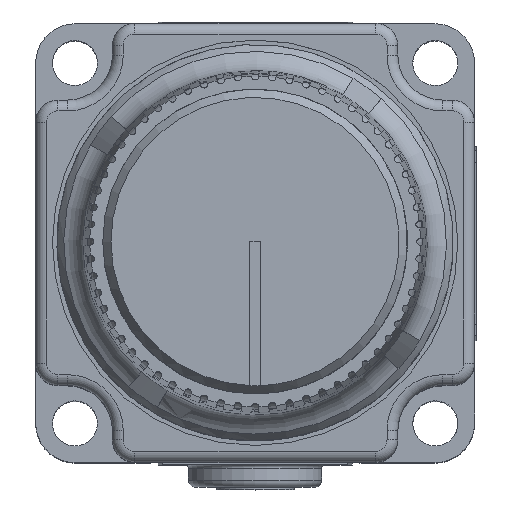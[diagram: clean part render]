
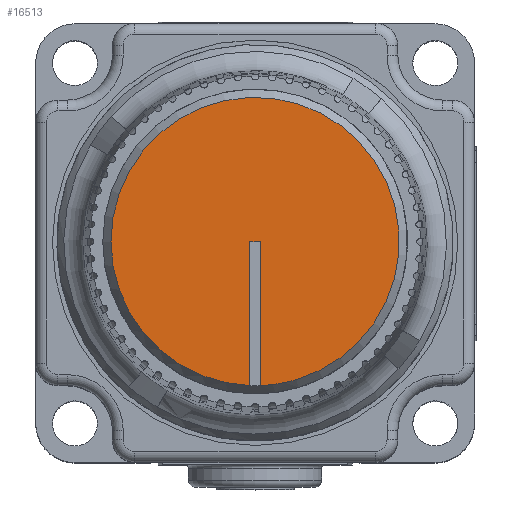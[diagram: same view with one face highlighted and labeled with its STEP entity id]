
A CAD part, top view. The second image highlights one B-rep face of the part: STEP entity #16513.
In plain terms, the highlighted planar face has unit normal (0, 0, 1).
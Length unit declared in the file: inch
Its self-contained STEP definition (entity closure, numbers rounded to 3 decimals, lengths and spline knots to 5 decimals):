
#817=PLANE('',#18056);
#1518=FACE_OUTER_BOUND('',#2483,.T.);
#2483=EDGE_LOOP('',(#12752,#12753,#12754,#12755,#12756));
#3341=CIRCLE('',#18057,0.4);
#3342=CIRCLE('',#18058,0.4);
#4553=LINE('',#27879,#5706);
#4554=LINE('',#27885,#5707);
#4555=LINE('',#27886,#5708);
#5706=VECTOR('',#21853,0.3937);
#5707=VECTOR('',#21858,0.3937);
#5708=VECTOR('',#21859,0.3937);
#7041=VERTEX_POINT('',#27877);
#7042=VERTEX_POINT('',#27878);
#7043=VERTEX_POINT('',#27880);
#7044=VERTEX_POINT('',#27882);
#7045=VERTEX_POINT('',#27884);
#9054=EDGE_CURVE('',#7041,#7042,#4553,.T.);
#9055=EDGE_CURVE('',#7042,#7043,#3341,.T.);
#9056=EDGE_CURVE('',#7043,#7044,#3342,.T.);
#9057=EDGE_CURVE('',#7044,#7045,#4554,.T.);
#9058=EDGE_CURVE('',#7045,#7041,#4555,.T.);
#12752=ORIENTED_EDGE('',*,*,#9054,.T.);
#12753=ORIENTED_EDGE('',*,*,#9055,.T.);
#12754=ORIENTED_EDGE('',*,*,#9056,.T.);
#12755=ORIENTED_EDGE('',*,*,#9057,.T.);
#12756=ORIENTED_EDGE('',*,*,#9058,.T.);
#16513=ADVANCED_FACE('',(#1518),#817,.T.);
#18056=AXIS2_PLACEMENT_3D('',#27876,#21851,#21852);
#18057=AXIS2_PLACEMENT_3D('',#27881,#21854,#21855);
#18058=AXIS2_PLACEMENT_3D('',#27883,#21856,#21857);
#21851=DIRECTION('center_axis',(0.,0.,1.));
#21852=DIRECTION('ref_axis',(1.,0.,0.));
#21853=DIRECTION('',(0.,-1.,0.));
#21854=DIRECTION('center_axis',(0.,0.,
1.));
#21855=DIRECTION('ref_axis',(0.325,0.946,0.));
#21856=DIRECTION('center_axis',(0.,0.,
1.));
#21857=DIRECTION('ref_axis',(0.325,0.946,0.));
#21858=DIRECTION('',(0.,1.,0.));
#21859=DIRECTION('',(1.,0.,0.));
#27876=CARTESIAN_POINT('Origin',(-0.49521,-0.16424,
1.82375));
#27877=CARTESIAN_POINT('',(-0.48021,0.23588,1.82375));
#27878=CARTESIAN_POINT('',(-0.48021,-0.16384,1.82375));
#27879=CARTESIAN_POINT('',(-0.48021,0.23588,1.82375));
#27880=CARTESIAN_POINT('',(-0.38103,-0.14748,1.82375));
#27881=CARTESIAN_POINT('Origin',(-0.49521,0.23588,1.82375));
#27882=CARTESIAN_POINT('',(-0.51021,-0.16384,1.82375));
#27883=CARTESIAN_POINT('Origin',(-0.49521,0.23588,1.82375));
#27884=CARTESIAN_POINT('',(-0.51021,0.23588,1.82375));
#27885=CARTESIAN_POINT('',(-0.51021,-0.16384,1.82375));
#27886=CARTESIAN_POINT('',(-0.51021,0.23588,1.82375));
